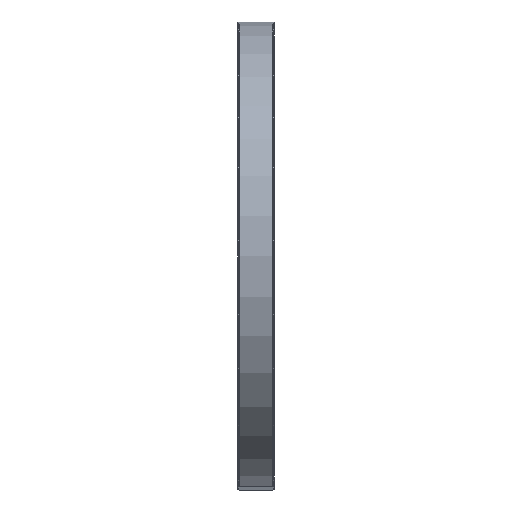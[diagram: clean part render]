
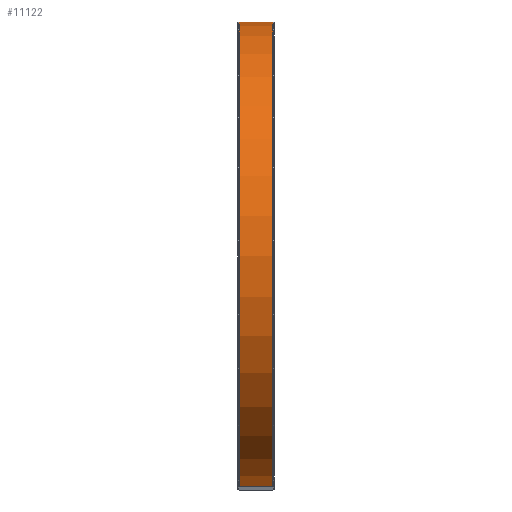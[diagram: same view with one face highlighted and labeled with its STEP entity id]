
A CAD part, front view. The second image highlights one B-rep face of the part: STEP entity #11122.
In plain terms, the highlighted cylindrical face has radius 63.325 mm (diameter 126.65 mm), a partial arc.
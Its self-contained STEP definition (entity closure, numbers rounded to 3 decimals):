
#632 = DIRECTION ( 'NONE',  ( -1., 0., 0. ) ) ;
#696 = AXIS2_PLACEMENT_3D ( 'NONE', #11707, #1149, #3190 ) ;
#1149 = DIRECTION ( 'NONE',  ( 1., 0., 0. ) ) ;
#2471 = CARTESIAN_POINT ( 'NONE',  ( 2.794, -9.407, -65.72 ) ) ;
#2792 = EDGE_CURVE ( 'NONE', #9542, #3874, #10016, .T. ) ;
#3094 = CARTESIAN_POINT ( 'NONE',  ( -6.206, 12.353, 59.046 ) ) ;
#3190 = DIRECTION ( 'NONE',  ( 0., 0.172, 0.985 ) ) ;
#3804 = DIRECTION ( 'NONE',  ( 1., 0., 0. ) ) ;
#3874 = VERTEX_POINT ( 'NONE', #3094 ) ;
#4086 = VECTOR ( 'NONE', #632, 1000. ) ;
#4721 = CARTESIAN_POINT ( 'NONE',  ( 2.794, 12.353, 59.046 ) ) ;
#6136 = AXIS2_PLACEMENT_3D ( 'NONE', #23482, #8928, #15125 ) ;
#7595 = CIRCLE ( 'NONE', #25563, 63.325 ) ;
#8054 = CARTESIAN_POINT ( 'NONE',  ( 2.794, 12.353, 59.046 ) ) ;
#8928 = DIRECTION ( 'NONE',  ( -1., 0., 0. ) ) ;
#9387 = VERTEX_POINT ( 'NONE', #13684 ) ;
#9542 = VERTEX_POINT ( 'NONE', #4721 ) ;
#9907 = DIRECTION ( 'NONE',  ( -1., 0., 0. ) ) ;
#10016 = LINE ( 'NONE', #8054, #4086 ) ;
#11122 = ADVANCED_FACE ( 'NONE', ( #21345 ), #17521, .T. ) ;
#11388 = ORIENTED_EDGE ( 'NONE', *, *, #24618, .F. ) ;
#11707 = CARTESIAN_POINT ( 'NONE',  ( 2.794, 1.473, -3.337 ) ) ;
#12467 = DIRECTION ( 'NONE',  ( 0., 0.172, 0.985 ) ) ;
#12884 = CARTESIAN_POINT ( 'NONE',  ( -6.206, 1.473, -3.337 ) ) ;
#13684 = CARTESIAN_POINT ( 'NONE',  ( -6.206, -9.407, -65.72 ) ) ;
#13983 = EDGE_CURVE ( 'NONE', #9542, #15899, #26339, .T. ) ;
#14976 = ORIENTED_EDGE ( 'NONE', *, *, #2792, .T. ) ;
#15125 = DIRECTION ( 'NONE',  ( 0., -0.172, -0.985 ) ) ;
#15899 = VERTEX_POINT ( 'NONE', #2471 ) ;
#16296 = ORIENTED_EDGE ( 'NONE', *, *, #25117, .T. ) ;
#16560 = EDGE_LOOP ( 'NONE', ( #21117, #14976, #16296, #11388 ) ) ;
#17521 = CYLINDRICAL_SURFACE ( 'NONE', #6136, 63.325 ) ;
#21045 = CARTESIAN_POINT ( 'NONE',  ( 2.794, -9.407, -65.72 ) ) ;
#21117 = ORIENTED_EDGE ( 'NONE', *, *, #13983, .F. ) ;
#21345 = FACE_OUTER_BOUND ( 'NONE', #16560, .T. ) ;
#23482 = CARTESIAN_POINT ( 'NONE',  ( 2.794, 1.473, -3.337 ) ) ;
#24618 = EDGE_CURVE ( 'NONE', #15899, #9387, #27643, .T. ) ;
#25117 = EDGE_CURVE ( 'NONE', #3874, #9387, #7595, .T. ) ;
#25563 = AXIS2_PLACEMENT_3D ( 'NONE', #12884, #3804, #12467 ) ;
#26339 = CIRCLE ( 'NONE', #696, 63.325 ) ;
#26633 = VECTOR ( 'NONE', #9907, 1000. ) ;
#27643 = LINE ( 'NONE', #21045, #26633 ) ;
